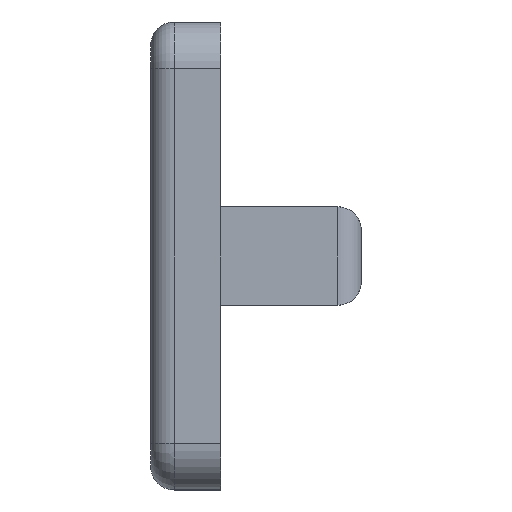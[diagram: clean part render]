
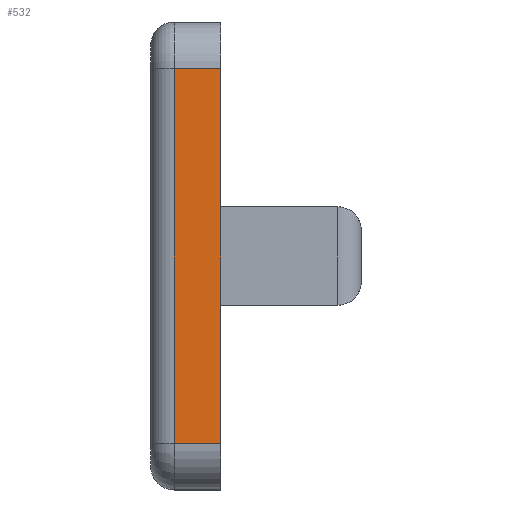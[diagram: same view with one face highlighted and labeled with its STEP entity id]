
A CAD part, left-side view. The second image highlights one B-rep face of the part: STEP entity #532.
In plain terms, the highlighted planar face has unit normal (-1, 0, 0).
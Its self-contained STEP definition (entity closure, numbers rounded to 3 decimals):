
#13 = LINE ( 'NONE', #966, #1455 ) ;
#86 = CARTESIAN_POINT ( 'NONE',  ( -40., 0.5, 8. ) ) ;
#207 = VECTOR ( 'NONE', #1081, 1000. ) ;
#237 = CARTESIAN_POINT ( 'NONE',  ( -40., 0.5, -8. ) ) ;
#270 = DIRECTION ( 'NONE',  ( 0., -1., 0. ) ) ;
#290 = CARTESIAN_POINT ( 'NONE',  ( -40., -1.5, -8. ) ) ;
#413 = LINE ( 'NONE', #1402, #1113 ) ;
#430 = VECTOR ( 'NONE', #1582, 1000. ) ;
#442 = VERTEX_POINT ( 'NONE', #290 ) ;
#465 = CARTESIAN_POINT ( 'NONE',  ( -40., -1.5, 8. ) ) ;
#497 = ORIENTED_EDGE ( 'NONE', *, *, #575, .T. ) ;
#532 = ADVANCED_FACE ( 'NONE', ( #862 ), #1516, .F. ) ;
#575 = EDGE_CURVE ( 'NONE', #1021, #442, #413, .T. ) ;
#594 = CARTESIAN_POINT ( 'NONE',  ( -40., 0.5, -8. ) ) ;
#610 = EDGE_CURVE ( 'NONE', #442, #1741, #13, .T. ) ;
#649 = CARTESIAN_POINT ( 'NONE',  ( -40., 1.5, 8. ) ) ;
#657 = DIRECTION ( 'NONE',  ( 1., 0., 0. ) ) ;
#680 = EDGE_LOOP ( 'NONE', ( #1743, #1615, #497, #1154 ) ) ;
#793 = EDGE_CURVE ( 'NONE', #901, #1021, #794, .T. ) ;
#794 = LINE ( 'NONE', #594, #430 ) ;
#862 = FACE_OUTER_BOUND ( 'NONE', #680, .T. ) ;
#901 = VERTEX_POINT ( 'NONE', #86 ) ;
#966 = CARTESIAN_POINT ( 'NONE',  ( -40., -1.5, 8. ) ) ;
#1021 = VERTEX_POINT ( 'NONE', #237 ) ;
#1068 = AXIS2_PLACEMENT_3D ( 'NONE', #1233, #657, #1650 ) ;
#1081 = DIRECTION ( 'NONE',  ( 0., -1., 0. ) ) ;
#1086 = EDGE_CURVE ( 'NONE', #901, #1741, #1330, .T. ) ;
#1113 = VECTOR ( 'NONE', #270, 1000. ) ;
#1154 = ORIENTED_EDGE ( 'NONE', *, *, #610, .T. ) ;
#1233 = CARTESIAN_POINT ( 'NONE',  ( -40., 1.5, 8. ) ) ;
#1330 = LINE ( 'NONE', #649, #207 ) ;
#1402 = CARTESIAN_POINT ( 'NONE',  ( -40., 1.5, -8. ) ) ;
#1404 = DIRECTION ( 'NONE',  ( 0., 0., 1. ) ) ;
#1455 = VECTOR ( 'NONE', #1404, 1000. ) ;
#1516 = PLANE ( 'NONE',  #1068 ) ;
#1582 = DIRECTION ( 'NONE',  ( 0., 0., -1. ) ) ;
#1615 = ORIENTED_EDGE ( 'NONE', *, *, #793, .T. ) ;
#1650 = DIRECTION ( 'NONE',  ( 0., 0., -1. ) ) ;
#1741 = VERTEX_POINT ( 'NONE', #465 ) ;
#1743 = ORIENTED_EDGE ( 'NONE', *, *, #1086, .F. ) ;
